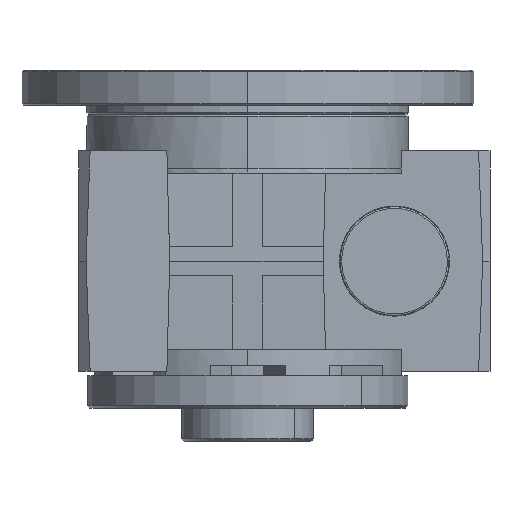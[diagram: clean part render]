
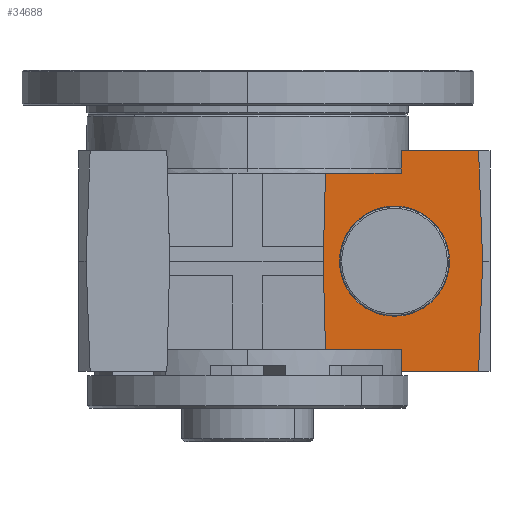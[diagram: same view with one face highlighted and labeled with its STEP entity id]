
A CAD part, left-side view. The second image highlights one B-rep face of the part: STEP entity #34688.
In plain terms, the highlighted planar face has unit normal (-1, 0, 0).
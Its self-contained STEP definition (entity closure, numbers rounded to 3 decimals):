
#52 = FACE_BOUND ( 'NONE', #29981, .T. ) ;
#126 = DIRECTION ( 'NONE',  ( 0., -1., 0. ) ) ;
#284 = VECTOR ( 'NONE', #27125, 1000. ) ;
#287 = CARTESIAN_POINT ( 'NONE',  ( -115., 115., -75. ) ) ;
#737 = LINE ( 'NONE', #44195, #10216 ) ;
#2137 = EDGE_CURVE ( 'NONE', #11928, #5562, #34133, .T. ) ;
#2612 = CARTESIAN_POINT ( 'NONE',  ( -115., -160., 0. ) ) ;
#3181 = ORIENTED_EDGE ( 'NONE', *, *, #36701, .T. ) ;
#3518 = EDGE_CURVE ( 'NONE', #45715, #33088, #11563, .T. ) ;
#4055 = AXIS2_PLACEMENT_3D ( 'NONE', #45213, #37866, #26706 ) ;
#4655 = ORIENTED_EDGE ( 'NONE', *, *, #5379, .F. ) ;
#4811 = EDGE_CURVE ( 'NONE', #31346, #38239, #21558, .T. ) ;
#5200 = AXIS2_PLACEMENT_3D ( 'NONE', #287, #34010, #5262 ) ;
#5262 = DIRECTION ( 'NONE',  ( 0., -1., 0. ) ) ;
#5379 = EDGE_CURVE ( 'NONE', #30578, #10273, #38928, .T. ) ;
#5562 = VERTEX_POINT ( 'NONE', #15048 ) ;
#5754 = EDGE_CURVE ( 'NONE', #5562, #32370, #12429, .T. ) ;
#5877 = CARTESIAN_POINT ( 'NONE',  ( -115., -62.5, 0. ) ) ;
#6116 = ORIENTED_EDGE ( 'NONE', *, *, #37185, .F. ) ;
#6308 = VECTOR ( 'NONE', #45349, 1000. ) ;
#6587 = DIRECTION ( 'NONE',  ( 0., -1., 0. ) ) ;
#6949 = EDGE_LOOP ( 'NONE', ( #22506, #33054, #6116, #12424, #25000, #44657, #19867, #46089, #11229, #3181 ) ) ;
#7983 = CARTESIAN_POINT ( 'NONE',  ( -115., -104.607, 60. ) ) ;
#8019 = DIRECTION ( 'NONE',  ( 0., 0.037, 0.999 ) ) ;
#10216 = VECTOR ( 'NONE', #37089, 1000. ) ;
#10273 = VERTEX_POINT ( 'NONE', #42992 ) ;
#11215 = AXIS2_PLACEMENT_3D ( 'NONE', #15740, #33539, #25697 ) ;
#11229 = ORIENTED_EDGE ( 'NONE', *, *, #2137, .F. ) ;
#11563 = LINE ( 'NONE', #7983, #40678 ) ;
#11684 = VECTOR ( 'NONE', #17539, 1000. ) ;
#11928 = VERTEX_POINT ( 'NONE', #40776 ) ;
#12243 = CARTESIAN_POINT ( 'NONE',  ( -115., -104.607, 60. ) ) ;
#12424 = ORIENTED_EDGE ( 'NONE', *, *, #35864, .F. ) ;
#12429 = LINE ( 'NONE', #44700, #284 ) ;
#13335 = LINE ( 'NONE', #41102, #6308 ) ;
#14357 = EDGE_CURVE ( 'NONE', #31346, #46461, #16660, .T. ) ;
#14570 = FACE_OUTER_BOUND ( 'NONE', #6949, .T. ) ;
#15048 = CARTESIAN_POINT ( 'NONE',  ( -115., -104.607, -60. ) ) ;
#15740 = CARTESIAN_POINT ( 'NONE',  ( -115., -100., 0. ) ) ;
#16210 = EDGE_CURVE ( 'NONE', #32370, #29475, #31952, .T. ) ;
#16660 = LINE ( 'NONE', #31139, #17421 ) ;
#17421 = VECTOR ( 'NONE', #8019, 1000. ) ;
#17539 = DIRECTION ( 'NONE',  ( 0., 0.037, -0.999 ) ) ;
#17580 = VECTOR ( 'NONE', #35520, 1000. ) ;
#19383 = EDGE_CURVE ( 'NONE', #10273, #30578, #43794, .T. ) ;
#19867 = ORIENTED_EDGE ( 'NONE', *, *, #16210, .F. ) ;
#19877 = CARTESIAN_POINT ( 'NONE',  ( -115., -105., -75. ) ) ;
#20622 = CARTESIAN_POINT ( 'NONE',  ( -115., -156.85, -85.067 ) ) ;
#21558 = LINE ( 'NONE', #20622, #11684 ) ;
#21649 = DIRECTION ( 'NONE',  ( 0., -0.026, 1. ) ) ;
#22506 = ORIENTED_EDGE ( 'NONE', *, *, #4811, .F. ) ;
#25000 = ORIENTED_EDGE ( 'NONE', *, *, #3518, .F. ) ;
#25697 = DIRECTION ( 'NONE',  ( 0., -1., 0. ) ) ;
#26134 = VECTOR ( 'NONE', #40794, 1000. ) ;
#26444 = CARTESIAN_POINT ( 'NONE',  ( -115., -105., 75. ) ) ;
#26706 = DIRECTION ( 'NONE',  ( 0., -1., 0. ) ) ;
#27125 = DIRECTION ( 'NONE',  ( 0., 1., 0. ) ) ;
#27843 = LINE ( 'NONE', #46808, #33423 ) ;
#29041 = PLANE ( 'NONE',  #5200 ) ;
#29475 = VERTEX_POINT ( 'NONE', #42605 ) ;
#29542 = VERTEX_POINT ( 'NONE', #26444 ) ;
#29981 = EDGE_LOOP ( 'NONE', ( #4655, #44970 ) ) ;
#30578 = VERTEX_POINT ( 'NONE', #5877 ) ;
#30840 = CARTESIAN_POINT ( 'NONE',  ( -115., -157.223, 75. ) ) ;
#31139 = CARTESIAN_POINT ( 'NONE',  ( -115., -162.397, -64.727 ) ) ;
#31287 = VECTOR ( 'NONE', #6587, 1000. ) ;
#31346 = VERTEX_POINT ( 'NONE', #2612 ) ;
#31952 = LINE ( 'NONE', #35286, #17580 ) ;
#31955 = CARTESIAN_POINT ( 'NONE',  ( -115., -157.223, -75. ) ) ;
#32370 = VERTEX_POINT ( 'NONE', #34396 ) ;
#33054 = ORIENTED_EDGE ( 'NONE', *, *, #14357, .T. ) ;
#33088 = VERTEX_POINT ( 'NONE', #12243 ) ;
#33423 = VECTOR ( 'NONE', #21649, 1000. ) ;
#33539 = DIRECTION ( 'NONE',  ( -1., 0., 0. ) ) ;
#34010 = DIRECTION ( 'NONE',  ( -1., 0., 0. ) ) ;
#34133 = LINE ( 'NONE', #19877, #26134 ) ;
#34396 = CARTESIAN_POINT ( 'NONE',  ( -115., -53., -60. ) ) ;
#34688 = ADVANCED_FACE ( 'NONE', ( #52, #14570 ), #29041, .T. ) ;
#35281 = CARTESIAN_POINT ( 'NONE',  ( -115., -53., 60. ) ) ;
#35286 = CARTESIAN_POINT ( 'NONE',  ( -115., -51.429, 0. ) ) ;
#35520 = DIRECTION ( 'NONE',  ( 0., 0.026, 1. ) ) ;
#35864 = EDGE_CURVE ( 'NONE', #33088, #29542, #27843, .T. ) ;
#36701 = EDGE_CURVE ( 'NONE', #11928, #38239, #46458, .T. ) ;
#37089 = DIRECTION ( 'NONE',  ( 0., -0.026, 1. ) ) ;
#37185 = EDGE_CURVE ( 'NONE', #29542, #46461, #13335, .T. ) ;
#37866 = DIRECTION ( 'NONE',  ( -1., 0., 0. ) ) ;
#38239 = VERTEX_POINT ( 'NONE', #31955 ) ;
#38928 = CIRCLE ( 'NONE', #4055, 37.5 ) ;
#39705 = EDGE_CURVE ( 'NONE', #29475, #45715, #737, .T. ) ;
#40678 = VECTOR ( 'NONE', #126, 1000. ) ;
#40776 = CARTESIAN_POINT ( 'NONE',  ( -115., -105., -75. ) ) ;
#40794 = DIRECTION ( 'NONE',  ( 0., 0.026, 1. ) ) ;
#41102 = CARTESIAN_POINT ( 'NONE',  ( -115., -105., 75. ) ) ;
#41965 = CARTESIAN_POINT ( 'NONE',  ( -115., -105., -75. ) ) ;
#42605 = CARTESIAN_POINT ( 'NONE',  ( -115., -51.429, 0. ) ) ;
#42992 = CARTESIAN_POINT ( 'NONE',  ( -115., -137.5, 0. ) ) ;
#43794 = CIRCLE ( 'NONE', #11215, 37.5 ) ;
#44195 = CARTESIAN_POINT ( 'NONE',  ( -115., -53., 60. ) ) ;
#44657 = ORIENTED_EDGE ( 'NONE', *, *, #39705, .F. ) ;
#44700 = CARTESIAN_POINT ( 'NONE',  ( -115., -53., -60. ) ) ;
#44970 = ORIENTED_EDGE ( 'NONE', *, *, #19383, .F. ) ;
#45213 = CARTESIAN_POINT ( 'NONE',  ( -115., -100., 0. ) ) ;
#45349 = DIRECTION ( 'NONE',  ( 0., -1., 0. ) ) ;
#45715 = VERTEX_POINT ( 'NONE', #35281 ) ;
#46089 = ORIENTED_EDGE ( 'NONE', *, *, #5754, .F. ) ;
#46458 = LINE ( 'NONE', #41965, #31287 ) ;
#46461 = VERTEX_POINT ( 'NONE', #30840 ) ;
#46808 = CARTESIAN_POINT ( 'NONE',  ( -115., -105., 75. ) ) ;
